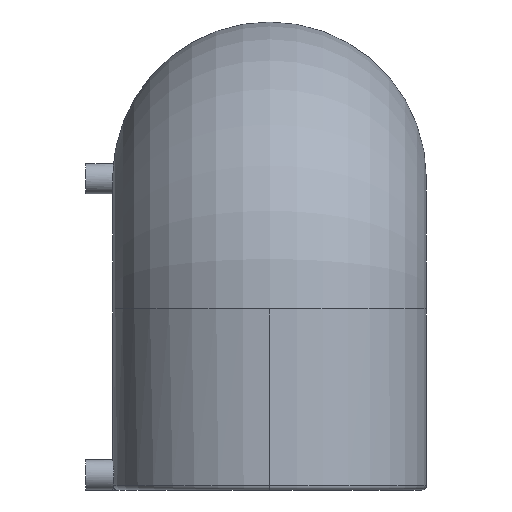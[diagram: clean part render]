
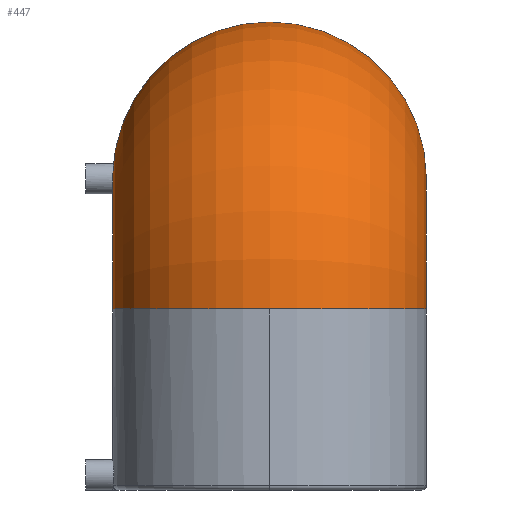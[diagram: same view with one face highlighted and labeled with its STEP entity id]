
A CAD part, left-side view. The second image highlights one B-rep face of the part: STEP entity #447.
In plain terms, the highlighted toroidal (fillet/blend) face has major radius 88.5 mm and minor radius 106.5 mm.
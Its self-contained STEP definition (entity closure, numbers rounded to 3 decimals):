
#8 = CARTESIAN_POINT ( 'NONE',  ( 82.31, -68.679, 126.493 ) ) ;
#22 = CARTESIAN_POINT ( 'NONE',  ( 81.031, -69.136, 123.575 ) ) ;
#137 = CARTESIAN_POINT ( 'NONE',  ( 82.868, -68.618, 127.27 ) ) ;
#171 = CARTESIAN_POINT ( 'NONE',  ( 80.903, -69.26, 123. ) ) ;
#187 = CARTESIAN_POINT ( 'NONE',  ( 80.95, -69.208, 123.231 ) ) ;
#196 = CARTESIAN_POINT ( 'NONE',  ( 0., 0., 123. ) ) ;
#223 = CARTESIAN_POINT ( 'NONE',  ( 88.5, 69.26, 130.597 ) ) ;
#226 = CARTESIAN_POINT ( 'NONE',  ( 88.5, -69.26, 130.597 ) ) ;
#256 = CARTESIAN_POINT ( 'NONE',  ( 81.609, 68.832, 125.245 ) ) ;
#271 = CARTESIAN_POINT ( 'NONE',  ( 83.859, 68.603, 128.315 ) ) ;
#300 = CARTESIAN_POINT ( 'NONE',  ( 84.976, -68.661, 129.224 ) ) ;
#321 = CIRCLE ( 'NONE', #1867, 106.5 ) ;
#346 = CARTESIAN_POINT ( 'NONE',  ( 81.19, -69.023, 124.14 ) ) ;
#358 = VERTEX_POINT ( 'NONE', #1493 ) ;
#377 = DIRECTION ( 'NONE',  ( 0., 0., 1. ) ) ;
#380 = VERTEX_POINT ( 'NONE', #1644 ) ;
#382 = TOROIDAL_SURFACE ( 'NONE', #2285, 88.5, 106.5 ) ;
#402 = CARTESIAN_POINT ( 'NONE',  ( 81.113, 69.063, 123.918 ) ) ;
#403 = DIRECTION ( 'NONE',  ( 0., 0., -1. ) ) ;
#447 = ADVANCED_FACE ( 'NONE', ( #1953 ), #382, .T. ) ;
#480 = CARTESIAN_POINT ( 'NONE',  ( 87.925, -69.136, 130.469 ) ) ;
#594 = CIRCLE ( 'NONE', #1506, 106.5 ) ;
#674 = DIRECTION ( 'NONE',  ( 0., -1., 0. ) ) ;
#680 = CARTESIAN_POINT ( 'NONE',  ( 88.039, -69.159, 130.498 ) ) ;
#763 = CARTESIAN_POINT ( 'NONE',  ( 88.5, 0., 211.5 ) ) ;
#819 = VERTEX_POINT ( 'NONE', #1238 ) ;
#824 = CARTESIAN_POINT ( 'NONE',  ( 84.228, 68.618, 128.63 ) ) ;
#842 = CARTESIAN_POINT ( 'NONE',  ( 88.5, 69.26, 130.597 ) ) ;
#864 = CARTESIAN_POINT ( 'NONE',  ( 88.269, -69.208, 130.55 ) ) ;
#885 = EDGE_CURVE ( 'NONE', #1859, #358, #889, .T. ) ;
#889 = B_SPLINE_CURVE_WITH_KNOTS ( 'NONE', 3,
 ( #171, #1212, #187, #919, #22, #1409, #346, #1252, #1454, #1744, #2109, #8, #1042, #137, #1222, #1983, #300, #1425, #1603, #1762, #1955, #480, #680, #864, #1086, #226 ),
 .UNSPECIFIED., .F., .F.,
 ( 4, 2, 2, 2, 2, 2, 2, 2, 2, 2, 2, 2, 4 ),
 ( 0., 0., 0.001, 0.001, 0.003, 0.004, 0.004, 0.006, 0.009, 0.01, 0.011, 0.011, 0.011 ),
 .UNSPECIFIED. ) ;
#919 = CARTESIAN_POINT ( 'NONE',  ( 81.002, -69.159, 123.461 ) ) ;
#921 = CARTESIAN_POINT ( 'NONE',  ( 88.5, 0., 211.5 ) ) ;
#947 = CARTESIAN_POINT ( 'NONE',  ( 85.4, 68.718, 129.445 ) ) ;
#970 = DIRECTION ( 'NONE',  ( 1., 0., 0. ) ) ;
#1042 = CARTESIAN_POINT ( 'NONE',  ( 82.444, -68.661, 126.691 ) ) ;
#1049 = EDGE_LOOP ( 'NONE', ( #2061, #1197, #2040, #1961, #2013, #2118 ) ) ;
#1075 = DIRECTION ( 'NONE',  ( 1., 0., 0. ) ) ;
#1079 = CIRCLE ( 'NONE', #1939, 106.5 ) ;
#1086 = CARTESIAN_POINT ( 'NONE',  ( 88.386, -69.234, 130.575 ) ) ;
#1106 = CARTESIAN_POINT ( 'NONE',  ( 82.834, 68.603, 127.288 ) ) ;
#1126 = DIRECTION ( 'NONE',  ( 1., 0., 0. ) ) ;
#1177 = CARTESIAN_POINT ( 'NONE',  ( 87.578, 69.063, 130.386 ) ) ;
#1197 = ORIENTED_EDGE ( 'NONE', *, *, #1631, .T. ) ;
#1212 = CARTESIAN_POINT ( 'NONE',  ( 80.925, -69.234, 123.114 ) ) ;
#1222 = CARTESIAN_POINT ( 'NONE',  ( 83.18, -68.603, 127.635 ) ) ;
#1233 = B_SPLINE_CURVE_WITH_KNOTS ( 'NONE', 3,
 ( #842, #1650, #1177, #1340, #1677, #947, #1843, #824, #271, #1106, #1861, #256, #2270, #402, #2237, #2036 ),
 .UNSPECIFIED., .F., .F.,
 ( 4, 2, 2, 2, 2, 2, 2, 4 ),
 ( 0., 0.001, 0.003, 0.004, 0.006, 0.009, 0.01, 0.012 ),
 .UNSPECIFIED. ) ;
#1238 = CARTESIAN_POINT ( 'NONE',  ( -106.5, 0., 123. ) ) ;
#1252 = CARTESIAN_POINT ( 'NONE',  ( 81.42, -68.902, 124.806 ) ) ;
#1255 = DIRECTION ( 'NONE',  ( 0., 0., -1. ) ) ;
#1282 = AXIS2_PLACEMENT_3D ( 'NONE', #196, #377, #1616 ) ;
#1311 = CIRCLE ( 'NONE', #1282, 106.5 ) ;
#1340 = CARTESIAN_POINT ( 'NONE',  ( 86.681, 68.9, 130.075 ) ) ;
#1362 = DIRECTION ( 'NONE',  ( 0., 0., 1. ) ) ;
#1409 = CARTESIAN_POINT ( 'NONE',  ( 81.121, -69.066, 123.915 ) ) ;
#1425 = CARTESIAN_POINT ( 'NONE',  ( 86.252, -68.831, 129.89 ) ) ;
#1454 = CARTESIAN_POINT ( 'NONE',  ( 81.606, -68.833, 125.24 ) ) ;
#1493 = CARTESIAN_POINT ( 'NONE',  ( 88.5, -69.26, 130.597 ) ) ;
#1506 = AXIS2_PLACEMENT_3D ( 'NONE', #921, #1075, #1255 ) ;
#1512 = VERTEX_POINT ( 'NONE', #1977 ) ;
#1535 = EDGE_CURVE ( 'NONE', #1512, #358, #1079, .T. ) ;
#1603 = CARTESIAN_POINT ( 'NONE',  ( 86.69, -68.901, 130.078 ) ) ;
#1616 = DIRECTION ( 'NONE',  ( 1., 0., 0. ) ) ;
#1631 = EDGE_CURVE ( 'NONE', #819, #1859, #321, .T. ) ;
#1644 = CARTESIAN_POINT ( 'NONE',  ( 80.903, 69.26, 123. ) ) ;
#1650 = CARTESIAN_POINT ( 'NONE',  ( 88.037, 69.156, 130.508 ) ) ;
#1677 = CARTESIAN_POINT ( 'NONE',  ( 86.24, 68.83, 129.885 ) ) ;
#1744 = CARTESIAN_POINT ( 'NONE',  ( 81.937, -68.748, 125.876 ) ) ;
#1762 = CARTESIAN_POINT ( 'NONE',  ( 87.358, -69.023, 130.309 ) ) ;
#1773 = VERTEX_POINT ( 'NONE', #223 ) ;
#1794 = EDGE_CURVE ( 'NONE', #380, #819, #1311, .T. ) ;
#1843 = CARTESIAN_POINT ( 'NONE',  ( 84.997, 68.675, 129.194 ) ) ;
#1859 = VERTEX_POINT ( 'NONE', #2142 ) ;
#1861 = CARTESIAN_POINT ( 'NONE',  ( 82.274, 68.662, 126.52 ) ) ;
#1867 = AXIS2_PLACEMENT_3D ( 'NONE', #2063, #1362, #970 ) ;
#1881 = DIRECTION ( 'NONE',  ( 1., 0., 0. ) ) ;
#1939 = AXIS2_PLACEMENT_3D ( 'NONE', #763, #1126, #403 ) ;
#1953 = FACE_OUTER_BOUND ( 'NONE', #1049, .T. ) ;
#1955 = CARTESIAN_POINT ( 'NONE',  ( 87.584, -69.066, 130.378 ) ) ;
#1961 = ORIENTED_EDGE ( 'NONE', *, *, #1535, .F. ) ;
#1977 = CARTESIAN_POINT ( 'NONE',  ( 88.5, 0., 318. ) ) ;
#1983 = CARTESIAN_POINT ( 'NONE',  ( 84.207, -68.603, 128.662 ) ) ;
#2013 = ORIENTED_EDGE ( 'NONE', *, *, #2188, .F. ) ;
#2036 = CARTESIAN_POINT ( 'NONE',  ( 80.903, 69.26, 123. ) ) ;
#2040 = ORIENTED_EDGE ( 'NONE', *, *, #885, .T. ) ;
#2061 = ORIENTED_EDGE ( 'NONE', *, *, #1794, .T. ) ;
#2063 = CARTESIAN_POINT ( 'NONE',  ( 0., 0., 123. ) ) ;
#2109 = CARTESIAN_POINT ( 'NONE',  ( 82.057, -68.722, 126.085 ) ) ;
#2118 = ORIENTED_EDGE ( 'NONE', *, *, #2264, .T. ) ;
#2142 = CARTESIAN_POINT ( 'NONE',  ( 80.903, -69.26, 123. ) ) ;
#2188 = EDGE_CURVE ( 'NONE', #1773, #1512, #594, .T. ) ;
#2237 = CARTESIAN_POINT ( 'NONE',  ( 80.992, 69.156, 123.463 ) ) ;
#2239 = CARTESIAN_POINT ( 'NONE',  ( 88.5, 0., 123. ) ) ;
#2264 = EDGE_CURVE ( 'NONE', #1773, #380, #1233, .T. ) ;
#2270 = CARTESIAN_POINT ( 'NONE',  ( 81.421, 68.901, 124.808 ) ) ;
#2285 = AXIS2_PLACEMENT_3D ( 'NONE', #2239, #674, #1881 ) ;
